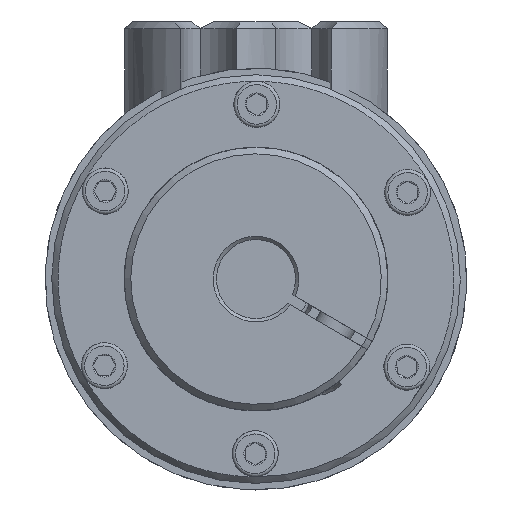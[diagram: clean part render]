
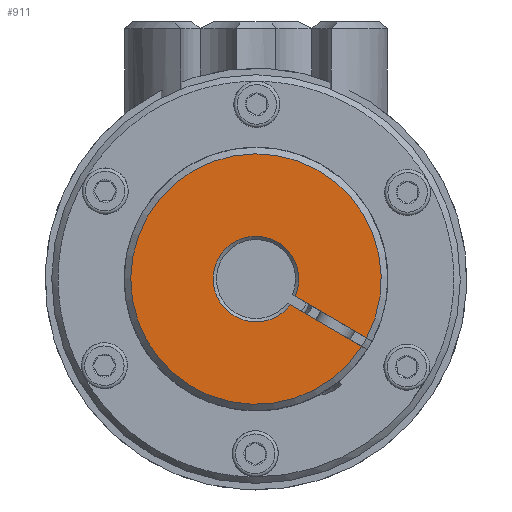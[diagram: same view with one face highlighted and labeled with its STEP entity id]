
A CAD part, left-side view. The second image highlights one B-rep face of the part: STEP entity #911.
In plain terms, the highlighted planar face has unit normal (-1, 0, 0) as drawn and (0, 0, -1) by its records, which use the part's own axes.
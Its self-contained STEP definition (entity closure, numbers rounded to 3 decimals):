
#911 = ADVANCED_FACE( '', ( #1930 ), #1931, .T. );
#1930 = FACE_OUTER_BOUND( '', #2925, .T. );
#1931 = PLANE( '', #2926 );
#2925 = EDGE_LOOP( '', ( #5295, #5296, #5297, #5298 ) );
#2926 = AXIS2_PLACEMENT_3D( '', #5299, #5300, #5301 );
#5295 = ORIENTED_EDGE( '', *, *, #6235, .T. );
#5296 = ORIENTED_EDGE( '', *, *, #6273, .T. );
#5297 = ORIENTED_EDGE( '', *, *, #6260, .F. );
#5298 = ORIENTED_EDGE( '', *, *, #6231, .T. );
#5299 = CARTESIAN_POINT( '', ( 0., 0., 0. ) );
#5300 = DIRECTION( '', ( 0., 0., -1. ) );
#5301 = DIRECTION( '', ( 0., -1., 0. ) );
#6231 = EDGE_CURVE( '', #7395, #7393, #7396, .T. );
#6235 = EDGE_CURVE( '', #7393, #7401, #7403, .T. );
#6260 = EDGE_CURVE( '', #7395, #7445, #7446, .F. );
#6273 = EDGE_CURVE( '', #7401, #7445, #7465, .F. );
#7393 = VERTEX_POINT( '', #9431 );
#7395 = VERTEX_POINT( '', #9436 );
#7396 = CIRCLE( '', #9437, 19. );
#7401 = VERTEX_POINT( '', #9446 );
#7403 = LINE( '', #9451, #9452 );
#7445 = VERTEX_POINT( '', #9522 );
#7446 = LINE( '', #9523, #9524 );
#7465 = CIRCLE( '', #9562, 6.5 );
#9431 = CARTESIAN_POINT( '', ( -18.985, -0.75, 0. ) );
#9436 = CARTESIAN_POINT( '', ( -18.985, 0.75, 0. ) );
#9437 = AXIS2_PLACEMENT_3D( '', #10954, #10955, #10956 );
#9446 = CARTESIAN_POINT( '', ( -6.457, -0.75, 0. ) );
#9451 = CARTESIAN_POINT( '', ( 0., -0.75, 0. ) );
#9452 = VECTOR( '', #10958, 1000. );
#9522 = CARTESIAN_POINT( '', ( -6.457, 0.75, 0. ) );
#9523 = CARTESIAN_POINT( '', ( -20., 0.75, 0. ) );
#9524 = VECTOR( '', #11004, 1000. );
#9562 = AXIS2_PLACEMENT_3D( '', #11023, #11024, #11025 );
#10954 = CARTESIAN_POINT( '', ( 0., 0., 0. ) );
#10955 = DIRECTION( '', ( 0., 0., -1. ) );
#10956 = DIRECTION( '', ( -1., 0., 0. ) );
#10958 = DIRECTION( '', ( 1., 0., 0. ) );
#11004 = DIRECTION( '', ( -1., 0., 0. ) );
#11023 = CARTESIAN_POINT( '', ( 0., 0., 0. ) );
#11024 = DIRECTION( '', ( 0., 0., -1. ) );
#11025 = DIRECTION( '', ( -1., 0., 0. ) );
